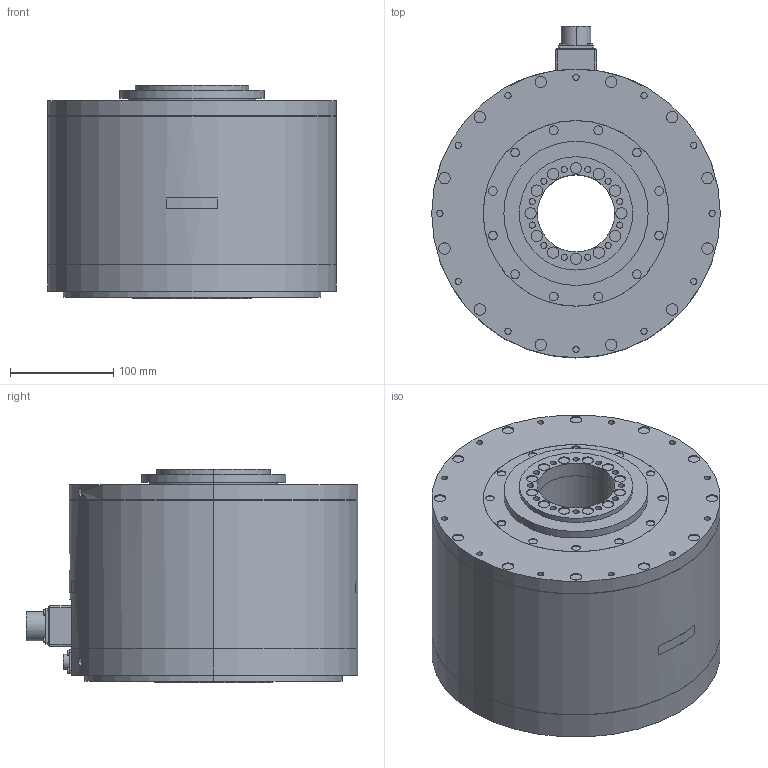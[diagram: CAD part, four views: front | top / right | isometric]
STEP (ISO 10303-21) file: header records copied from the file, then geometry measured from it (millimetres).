
FILE_DESCRIPTION (( 'STEP AP203' ), '1' );
FILE_NAME ('sgm7f_80m_a1_.STEP', '2016-08-19T11:11:50', ( '' ), ( '' ), 'SwSTEP 2.0', 'SolidWorks 2010', '' );
FILE_SCHEMA (( 'CONFIG_CONTROL_DESIGN' ));
Length unit declared in the file: millimetre
Products named in the file (1): sgm7f_80m_a1_
Bounding box: 280 x 322 x 207.5 mm (x, y, z)
Volume: 10795586 mm3; surface area: 379722.8 mm2
Topology: 1 solids, 1 shells, 536 faces, 1134 edges, 756 vertices
Faces by surface type: cylinder 324, plane 207, bspline 5
Entity records: 15359 total; most frequent: CARTESIAN_POINT 3062, DIRECTION 2830, ORIENTED_EDGE 2268, AXIS2_PLACEMENT_3D 1188, EDGE_CURVE 1134, VERTEX_POINT 756, EDGE_LOOP 694, CIRCLE 656
